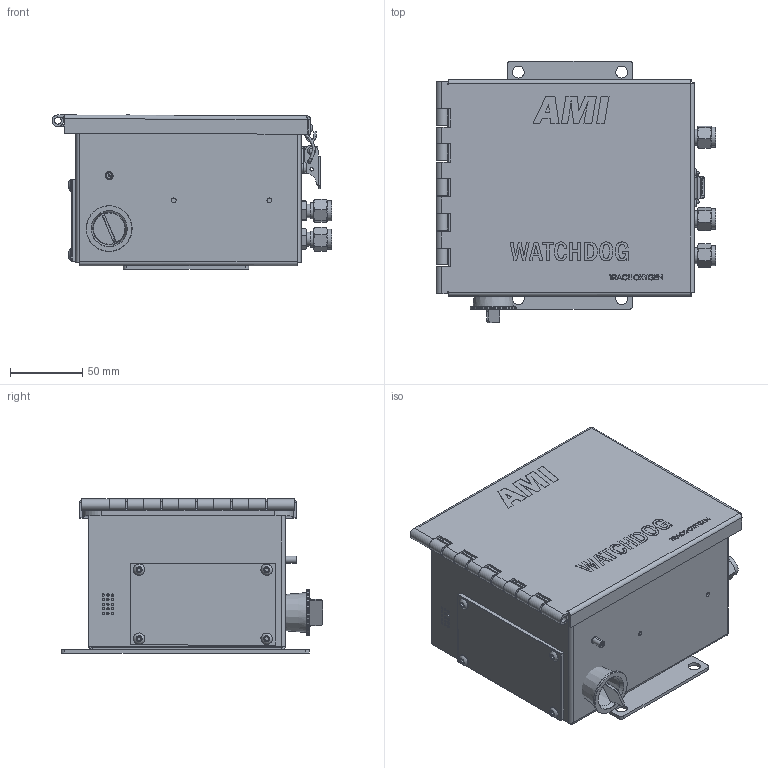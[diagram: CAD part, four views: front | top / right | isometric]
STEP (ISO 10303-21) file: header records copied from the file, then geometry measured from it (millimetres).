
FILE_DESCRIPTION (( 'STEP AP214' ), '1' );
FILE_NAME ('4DOD4000A.STEP', '2022-05-24T22:44:16', ( '' ), ( '' ), 'SwSTEP 2.0', 'SolidWorks 2020', '' );
FILE_SCHEMA (( 'AUTOMOTIVE_DESIGN' ));
Length unit declared in the file: inch
Products named in the file (40): 2CAS55S^4CAS55; BSOS-032-16; 2LTC02_PEMS ON; 3CON102; 1FLM04_DOD; 2CAS55-2; 1LTC02_remove latch; 2CAS56P^4CAS56; 4PCB109; 2PCB109; 2KNB05; 2BRK97; 1SCR86_92949A189; 2CAS56S^4CAS56; F-832-1; 2SEL02; 2BKS01; FHS-032-6; 4BLK33_DOD; 2BRK97P^4BRK148; CLS-832-2; 2WSH01; 3CON88; 2KNB07; 2VLV11; 4DOD4000A; 2CAS55-1; 4BRK148; 2BRK127; 4CAS56_DOD; 1PLG17_4491K14; 1FIT07; 2CAS55P^4CAS55; 2CAS56_DOD; 2CBC01; 2BRK96; 1SCR83_92949A105; 4CAS55; 2BLK31_DOD; 2CAS55
Assembly tree (53 placements, depth 4):
  2CAS55S^4CAS55
  2CAS56P^4CAS56
  2CAS56S^4CAS56
  4DOD4000A
    4CAS55
      2CAS55
        2CAS55-2
        2CAS55-1
        BSOS-032-16  x5
        FHS-032-6
        CLS-832-2  x4
        F-832-1  x2
      2CAS55P^4CAS55
    4CAS56_DOD
      2CAS56_DOD
    4BLK33_DOD
      2BLK31_DOD
      1FLM04_DOD
      2KNB05
      2KNB07
      2VLV11
      2WSH01  x2
      2CBC01
      1FIT07  x3
      2BKS01
    2BRK127
    4BRK148
      2BRK97
      2BRK97P^4BRK148
    2BRK96
    2SEL02
    2LTC02_PEMS ON
    1SCR83_92949A105  x2
    4PCB109
      2PCB109
      3CON88
      3CON102
    1LTC02_remove latch
    1PLG17_4491K14
    1SCR86_92949A189  x6
Bounding box: 193.52 x 180.98 x 106.55 mm (x, y, z)
Volume: 1058637.4 mm3; surface area: 494655.4 mm2
Topology: 61 solids, 70 shells, 1899 faces, 4575 edges, 2930 vertices
Faces by surface type: plane 1145, cylinder 431, cone 172, bspline 116, torus 20, sphere 15
Full cylindrical faces by diameter (mm): 0.508 x10, 0.92 x4, 1.016 x4, 1.575 x2, 1.6 x15, 2 x1, 2.172 x1, 2.3 x2, 2.337 x2, 2.4 x4, 2.705 x3, 2.946 x2, 3.175 x5, 3.2 x1, 3.307 x6, 3.4 x2, 3.505 x2, 3.607 x1, 3.658 x3, 3.713 x5, 3.797 x1, 3.81 x15, 3.967 x5, 4.191 x3, 4.2 x2, 4.216 x3, 4.25 x4, 4.775 x5, 4.8 x3, 4.801 x1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
Entity records: 59781 total; most frequent: CARTESIAN_POINT 17891, ORIENTED_EDGE 7033, DIRECTION 6872, EDGE_CURVE 3525, VERTEX_POINT 2395, VECTOR 2366, LINE 2366, AXIS2_PLACEMENT_3D 2253
